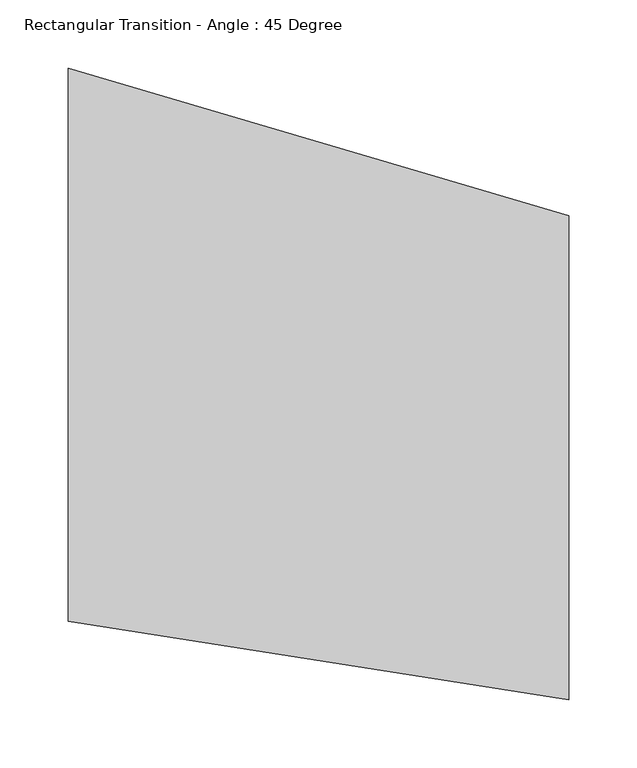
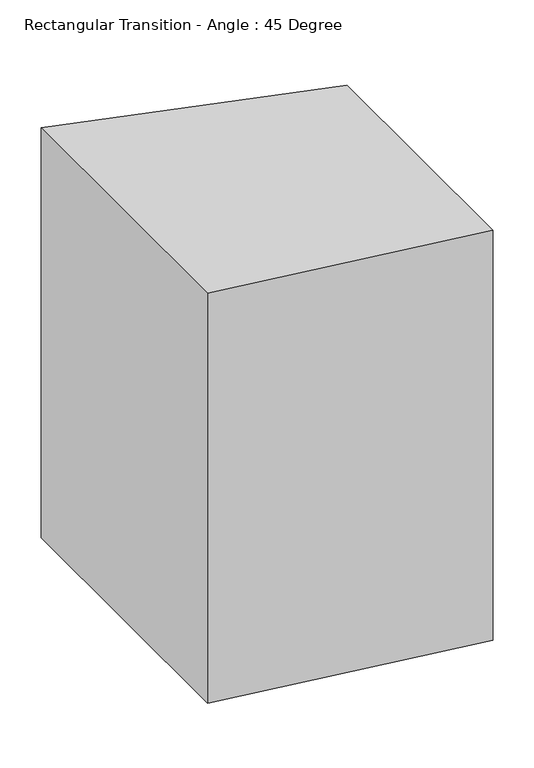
"""IFC4 building model written with IfcOpenShell, lengths in millimetres: duct fitting geometry, Rectangular Transition - Angle : 45 Degree."""

from ifc_helpers import new_model, si_unit, origin, place, context, project, spatial, faceted_brep, source, transform, mapped, element, save


def rectangular_transition_angle_45_degree_179eea5a(model_context):
    return source(origin(), model_context, "Body", "Brep", [
        faceted_brep([(367.9261469, -261.0182613, 304.8104386), (367.9261469, -261.0182613, -304.7895614), (367.9261469, 94.5817387, -304.7895614), (367.9261469, 94.5817387, 304.8104386), (0.0, -203.2, 304.8), (0.0, 203.2, 304.8), (0.0, 203.2, -304.8), (0.0, -203.2, -304.8)], [[[0, 1, 2, 3]], [[4, 5, 6, 7]], [[4, 7, 1, 0]], [[7, 6, 2, 1]], [[6, 5, 3, 2]], [[5, 4, 0, 3]]]),
    ])


if __name__ == "__main__":
    model = new_model("IFC4")
    model_context = context("Model", 3, world=origin())
    ifc_project = project(units=[si_unit("LENGTHUNIT", "METRE", prefix="MILLI")], contexts=[model_context])
    site = spatial("IfcSite", under=ifc_project)
    building = spatial("IfcBuilding", under=site)
    placement = place(None, origin())
    rectangular_transition_angle_45_degree_shape = rectangular_transition_angle_45_degree_179eea5a(model_context)
    element("IfcDuctFitting", 1, ObjectType="Rectangular Transition - Angle : 45 Degree", at=placement, inside=building, context=model_context, shape_type="MappedRepresentation", body=[
        mapped(rectangular_transition_angle_45_degree_shape, transform((0.0, 0.0, 0.0), x_axis=(1.0, 0.0, 0.0), y_axis=(0.0, 1.0, 0.0), z_axis=(0.0, 0.0, 1.0))),
    ])
    save(model, "model.ifc")
